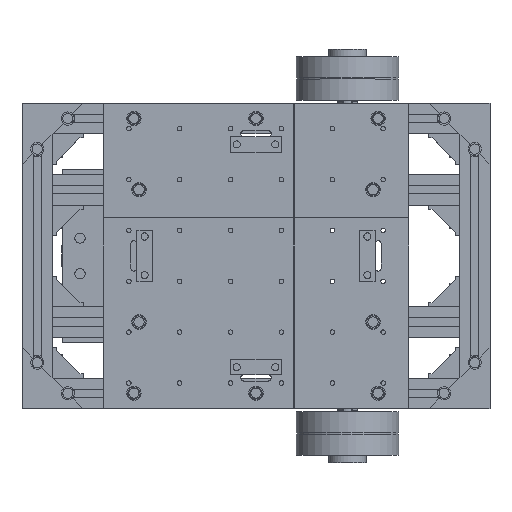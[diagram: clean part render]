
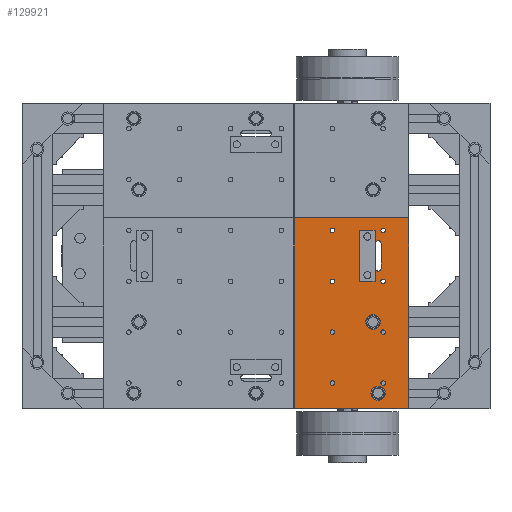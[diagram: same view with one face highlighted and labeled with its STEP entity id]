
A CAD part, top view. The second image highlights one B-rep face of the part: STEP entity #129921.
In plain terms, the highlighted planar face has unit normal (0, 0, 1).
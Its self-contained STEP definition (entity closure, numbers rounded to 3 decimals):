
#129352 = VERTEX_POINT('',#129353);
#129353 = CARTESIAN_POINT('',(37.7,-150.,124.));
#129359 = EDGE_CURVE('',#129352,#129360,#129362,.T.);
#129360 = VERTEX_POINT('',#129361);
#129361 = CARTESIAN_POINT('',(150.,-150.,124.));
#129362 = LINE('',#129363,#129364);
#129363 = CARTESIAN_POINT('',(-150.,-150.,124.));
#129364 = VECTOR('',#129365,1.);
#129365 = DIRECTION('',(1.,0.,0.));
#129904 = VERTEX_POINT('',#129905);
#129905 = CARTESIAN_POINT('',(150.,37.3,124.));
#129911 = EDGE_CURVE('',#129360,#129904,#129912,.T.);
#129912 = LINE('',#129913,#129914);
#129913 = CARTESIAN_POINT('',(150.,-150.,124.));
#129914 = VECTOR('',#129915,1.);
#129915 = DIRECTION('',(0.,1.,0.));
#129921 = ADVANCED_FACE('',(#129922,#129940,#129951,#129962,#129973,
    #129984,#129995,#130006,#130017,#130028,#130039,#130050,#130095,
    #130106),#130117,.T.);
#129922 = FACE_BOUND('',#129923,.T.);
#129923 = EDGE_LOOP('',(#129924,#129932,#129933,#129934));
#129924 = ORIENTED_EDGE('',*,*,#129925,.F.);
#129925 = EDGE_CURVE('',#129352,#129926,#129928,.T.);
#129926 = VERTEX_POINT('',#129927);
#129927 = CARTESIAN_POINT('',(37.7,37.3,124.));
#129928 = LINE('',#129929,#129930);
#129929 = CARTESIAN_POINT('',(37.7,-150.,124.));
#129930 = VECTOR('',#129931,1.);
#129931 = DIRECTION('',(0.,1.,0.));
#129932 = ORIENTED_EDGE('',*,*,#129359,.T.);
#129933 = ORIENTED_EDGE('',*,*,#129911,.T.);
#129934 = ORIENTED_EDGE('',*,*,#129935,.F.);
#129935 = EDGE_CURVE('',#129926,#129904,#129936,.T.);
#129936 = LINE('',#129937,#129938);
#129937 = CARTESIAN_POINT('',(37.7,37.3,124.));
#129938 = VECTOR('',#129939,1.);
#129939 = DIRECTION('',(1.,0.,0.));
#129940 = FACE_BOUND('',#129941,.T.);
#129941 = EDGE_LOOP('',(#129942));
#129942 = ORIENTED_EDGE('',*,*,#129943,.F.);
#129943 = EDGE_CURVE('',#129944,#129944,#129946,.T.);
#129944 = VERTEX_POINT('',#129945);
#129945 = CARTESIAN_POINT('',(77.25,-125.,124.));
#129946 = CIRCLE('',#129947,2.25);
#129947 = AXIS2_PLACEMENT_3D('',#129948,#129949,#129950);
#129948 = CARTESIAN_POINT('',(75.,-125.,124.));
#129949 = DIRECTION('',(0.,0.,1.));
#129950 = DIRECTION('',(1.,0.,0.));
#129951 = FACE_BOUND('',#129952,.T.);
#129952 = EDGE_LOOP('',(#129953));
#129953 = ORIENTED_EDGE('',*,*,#129954,.F.);
#129954 = EDGE_CURVE('',#129955,#129955,#129957,.T.);
#129955 = VERTEX_POINT('',#129956);
#129956 = CARTESIAN_POINT('',(127.,-135.,124.));
#129957 = CIRCLE('',#129958,7.);
#129958 = AXIS2_PLACEMENT_3D('',#129959,#129960,#129961);
#129959 = CARTESIAN_POINT('',(120.,-135.,124.));
#129960 = DIRECTION('',(0.,0.,1.));
#129961 = DIRECTION('',(1.,0.,0.));
#129962 = FACE_BOUND('',#129963,.T.);
#129963 = EDGE_LOOP('',(#129964));
#129964 = ORIENTED_EDGE('',*,*,#129965,.F.);
#129965 = EDGE_CURVE('',#129966,#129966,#129968,.T.);
#129966 = VERTEX_POINT('',#129967);
#129967 = CARTESIAN_POINT('',(127.25,-125.,124.));
#129968 = CIRCLE('',#129969,2.25);
#129969 = AXIS2_PLACEMENT_3D('',#129970,#129971,#129972);
#129970 = CARTESIAN_POINT('',(125.,-125.,124.));
#129971 = DIRECTION('',(0.,0.,1.));
#129972 = DIRECTION('',(1.,0.,0.));
#129973 = FACE_BOUND('',#129974,.T.);
#129974 = EDGE_LOOP('',(#129975));
#129975 = ORIENTED_EDGE('',*,*,#129976,.F.);
#129976 = EDGE_CURVE('',#129977,#129977,#129979,.T.);
#129977 = VERTEX_POINT('',#129978);
#129978 = CARTESIAN_POINT('',(77.25,-75.,124.));
#129979 = CIRCLE('',#129980,2.25);
#129980 = AXIS2_PLACEMENT_3D('',#129981,#129982,#129983);
#129981 = CARTESIAN_POINT('',(75.,-75.,124.));
#129982 = DIRECTION('',(0.,0.,1.));
#129983 = DIRECTION('',(1.,0.,0.));
#129984 = FACE_BOUND('',#129985,.T.);
#129985 = EDGE_LOOP('',(#129986));
#129986 = ORIENTED_EDGE('',*,*,#129987,.F.);
#129987 = EDGE_CURVE('',#129988,#129988,#129990,.T.);
#129988 = VERTEX_POINT('',#129989);
#129989 = CARTESIAN_POINT('',(127.25,-75.,124.));
#129990 = CIRCLE('',#129991,2.25);
#129991 = AXIS2_PLACEMENT_3D('',#129992,#129993,#129994);
#129992 = CARTESIAN_POINT('',(125.,-75.,124.));
#129993 = DIRECTION('',(0.,0.,1.));
#129994 = DIRECTION('',(1.,0.,0.));
#129995 = FACE_BOUND('',#129996,.T.);
#129996 = EDGE_LOOP('',(#129997));
#129997 = ORIENTED_EDGE('',*,*,#129998,.F.);
#129998 = EDGE_CURVE('',#129999,#129999,#130001,.T.);
#129999 = VERTEX_POINT('',#130000);
#130000 = CARTESIAN_POINT('',(122.,-65.,124.));
#130001 = CIRCLE('',#130002,7.);
#130002 = AXIS2_PLACEMENT_3D('',#130003,#130004,#130005);
#130003 = CARTESIAN_POINT('',(115.,-65.,124.));
#130004 = DIRECTION('',(0.,0.,1.));
#130005 = DIRECTION('',(1.,0.,0.));
#130006 = FACE_BOUND('',#130007,.T.);
#130007 = EDGE_LOOP('',(#130008));
#130008 = ORIENTED_EDGE('',*,*,#130009,.F.);
#130009 = EDGE_CURVE('',#130010,#130010,#130012,.T.);
#130010 = VERTEX_POINT('',#130011);
#130011 = CARTESIAN_POINT('',(77.25,-25.,124.));
#130012 = CIRCLE('',#130013,2.25);
#130013 = AXIS2_PLACEMENT_3D('',#130014,#130015,#130016);
#130014 = CARTESIAN_POINT('',(75.,-25.,124.));
#130015 = DIRECTION('',(0.,0.,1.));
#130016 = DIRECTION('',(1.,0.,0.));
#130017 = FACE_BOUND('',#130018,.T.);
#130018 = EDGE_LOOP('',(#130019));
#130019 = ORIENTED_EDGE('',*,*,#130020,.F.);
#130020 = EDGE_CURVE('',#130021,#130021,#130023,.T.);
#130021 = VERTEX_POINT('',#130022);
#130022 = CARTESIAN_POINT('',(111.75,-19.,124.));
#130023 = CIRCLE('',#130024,2.25);
#130024 = AXIS2_PLACEMENT_3D('',#130025,#130026,#130027);
#130025 = CARTESIAN_POINT('',(109.5,-19.,124.));
#130026 = DIRECTION('',(0.,0.,1.));
#130027 = DIRECTION('',(1.,0.,0.));
#130028 = FACE_BOUND('',#130029,.T.);
#130029 = EDGE_LOOP('',(#130030));
#130030 = ORIENTED_EDGE('',*,*,#130031,.F.);
#130031 = EDGE_CURVE('',#130032,#130032,#130034,.T.);
#130032 = VERTEX_POINT('',#130033);
#130033 = CARTESIAN_POINT('',(127.25,-25.,124.));
#130034 = CIRCLE('',#130035,2.25);
#130035 = AXIS2_PLACEMENT_3D('',#130036,#130037,#130038);
#130036 = CARTESIAN_POINT('',(125.,-25.,124.));
#130037 = DIRECTION('',(0.,0.,1.));
#130038 = DIRECTION('',(1.,0.,0.));
#130039 = FACE_BOUND('',#130040,.T.);
#130040 = EDGE_LOOP('',(#130041));
#130041 = ORIENTED_EDGE('',*,*,#130042,.F.);
#130042 = EDGE_CURVE('',#130043,#130043,#130045,.T.);
#130043 = VERTEX_POINT('',#130044);
#130044 = CARTESIAN_POINT('',(77.25,25.,124.));
#130045 = CIRCLE('',#130046,2.25);
#130046 = AXIS2_PLACEMENT_3D('',#130047,#130048,#130049);
#130047 = CARTESIAN_POINT('',(75.,25.,124.));
#130048 = DIRECTION('',(0.,0.,1.));
#130049 = DIRECTION('',(1.,0.,0.));
#130050 = FACE_BOUND('',#130051,.T.);
#130051 = EDGE_LOOP('',(#130052,#130062,#130071,#130080,#130088));
#130052 = ORIENTED_EDGE('',*,*,#130053,.F.);
#130053 = EDGE_CURVE('',#130054,#130056,#130058,.T.);
#130054 = VERTEX_POINT('',#130055);
#130055 = CARTESIAN_POINT('',(117.,12.,124.));
#130056 = VERTEX_POINT('',#130057);
#130057 = CARTESIAN_POINT('',(117.,-12.,124.));
#130058 = LINE('',#130059,#130060);
#130059 = CARTESIAN_POINT('',(117.,-81.,124.));
#130060 = VECTOR('',#130061,1.);
#130061 = DIRECTION('',(0.,-1.,0.));
#130062 = ORIENTED_EDGE('',*,*,#130063,.F.);
#130063 = EDGE_CURVE('',#130064,#130054,#130066,.T.);
#130064 = VERTEX_POINT('',#130065);
#130065 = CARTESIAN_POINT('',(120.,15.,124.));
#130066 = CIRCLE('',#130067,3.);
#130067 = AXIS2_PLACEMENT_3D('',#130068,#130069,#130070);
#130068 = CARTESIAN_POINT('',(120.,12.,124.));
#130069 = DIRECTION('',(0.,-0.,1.));
#130070 = DIRECTION('',(0.,1.,0.));
#130071 = ORIENTED_EDGE('',*,*,#130072,.F.);
#130072 = EDGE_CURVE('',#130073,#130064,#130075,.T.);
#130073 = VERTEX_POINT('',#130074);
#130074 = CARTESIAN_POINT('',(123.,12.,124.));
#130075 = CIRCLE('',#130076,3.);
#130076 = AXIS2_PLACEMENT_3D('',#130077,#130078,#130079);
#130077 = CARTESIAN_POINT('',(120.,12.,124.));
#130078 = DIRECTION('',(0.,-0.,1.));
#130079 = DIRECTION('',(0.,1.,0.));
#130080 = ORIENTED_EDGE('',*,*,#130081,.T.);
#130081 = EDGE_CURVE('',#130073,#130082,#130084,.T.);
#130082 = VERTEX_POINT('',#130083);
#130083 = CARTESIAN_POINT('',(123.,-12.,124.));
#130084 = LINE('',#130085,#130086);
#130085 = CARTESIAN_POINT('',(123.,-81.,124.));
#130086 = VECTOR('',#130087,1.);
#130087 = DIRECTION('',(0.,-1.,0.));
#130088 = ORIENTED_EDGE('',*,*,#130089,.F.);
#130089 = EDGE_CURVE('',#130056,#130082,#130090,.T.);
#130090 = CIRCLE('',#130091,3.);
#130091 = AXIS2_PLACEMENT_3D('',#130092,#130093,#130094);
#130092 = CARTESIAN_POINT('',(120.,-12.,124.));
#130093 = DIRECTION('',(0.,-0.,1.));
#130094 = DIRECTION('',(0.,1.,0.));
#130095 = FACE_BOUND('',#130096,.T.);
#130096 = EDGE_LOOP('',(#130097));
#130097 = ORIENTED_EDGE('',*,*,#130098,.F.);
#130098 = EDGE_CURVE('',#130099,#130099,#130101,.T.);
#130099 = VERTEX_POINT('',#130100);
#130100 = CARTESIAN_POINT('',(111.75,19.,124.));
#130101 = CIRCLE('',#130102,2.25);
#130102 = AXIS2_PLACEMENT_3D('',#130103,#130104,#130105);
#130103 = CARTESIAN_POINT('',(109.5,19.,124.));
#130104 = DIRECTION('',(0.,0.,1.));
#130105 = DIRECTION('',(1.,0.,0.));
#130106 = FACE_BOUND('',#130107,.T.);
#130107 = EDGE_LOOP('',(#130108));
#130108 = ORIENTED_EDGE('',*,*,#130109,.F.);
#130109 = EDGE_CURVE('',#130110,#130110,#130112,.T.);
#130110 = VERTEX_POINT('',#130111);
#130111 = CARTESIAN_POINT('',(127.25,25.,124.));
#130112 = CIRCLE('',#130113,2.25);
#130113 = AXIS2_PLACEMENT_3D('',#130114,#130115,#130116);
#130114 = CARTESIAN_POINT('',(125.,25.,124.));
#130115 = DIRECTION('',(0.,0.,1.));
#130116 = DIRECTION('',(1.,0.,0.));
#130117 = PLANE('',#130118);
#130118 = AXIS2_PLACEMENT_3D('',#130119,#130120,#130121);
#130119 = CARTESIAN_POINT('',(-150.,-150.,124.));
#130120 = DIRECTION('',(0.,0.,1.));
#130121 = DIRECTION('',(1.,0.,0.));
